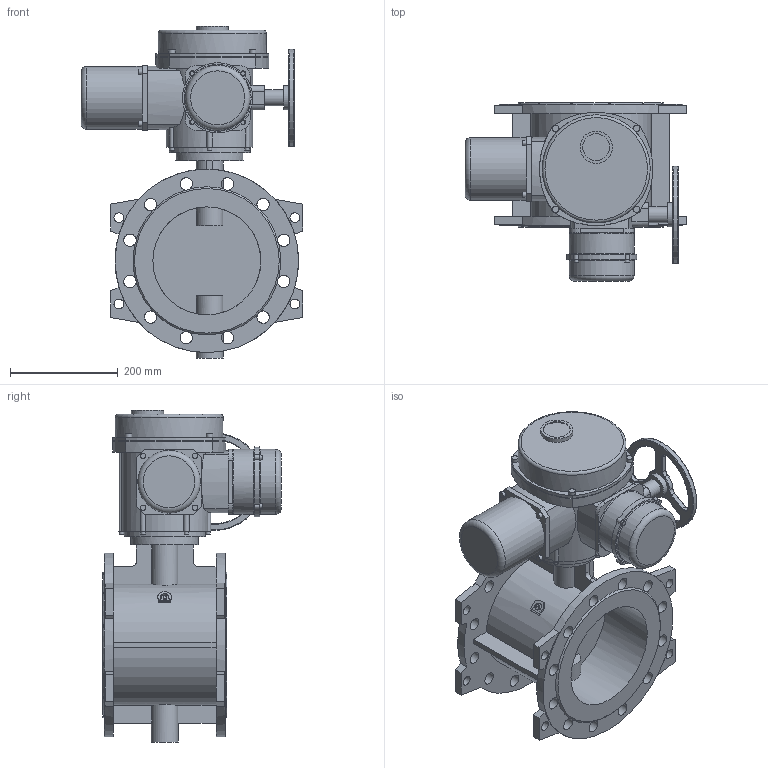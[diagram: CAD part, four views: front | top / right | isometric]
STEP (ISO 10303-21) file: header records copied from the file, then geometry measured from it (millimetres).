
FILE_DESCRIPTION(('STEP AP203'), '1');
FILE_NAME('青蜮铕 023F.Z DN200 PN16_菹_QT.Z060', '', ('UNSPECIFIED'), ('UNSPECIFIED'), 'ASCON STEP Converter 1.6', 'ASCON Math Kernel', '');
FILE_SCHEMA(('CONFIG_CONTROL_DESIGN'));
Length unit declared in the file: millimetre
Bounding box: 411 x 331 x 615 mm (x, y, z)
Volume: 14611612.4 mm3; surface area: 1150260.1 mm2
Topology: 1 solids, 1 shells, 391 faces, 1055 edges, 666 vertices
Faces by surface type: cylinder 175, plane 143, torus 47, cone 18, bspline 8
Full cylindrical faces by diameter (mm): 8 x10, 8.376 x4, 10 x4, 10.106 x4, 12 x8, 12.386 x1, 18 x8, 23 x24, 30 x1, 45 x1, 50 x2, 60 x1, 116 x1, 120 x2, 125 x1, 150 x1, 180 x1, 200 x3, 340 x2
Entity records: 19302 total; most frequent: CARTESIAN_POINT 6443, DIRECTION 2133, ORIENTED_EDGE 1866, EDGE_CURVE 933, AXIS2_PLACEMENT_3D 897, VERTEX_POINT 657, EDGE_LOOP 577, CIRCLE 513
